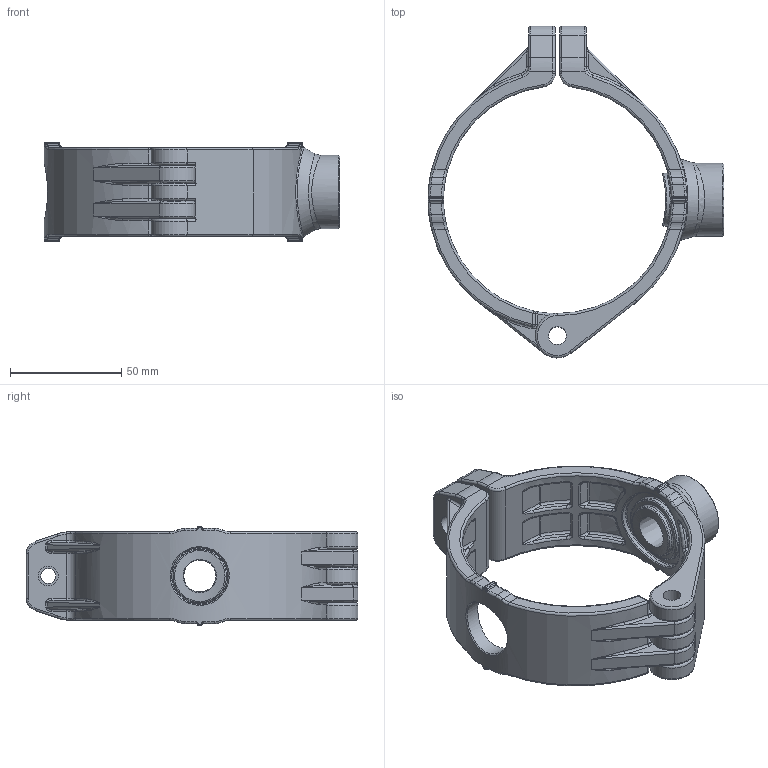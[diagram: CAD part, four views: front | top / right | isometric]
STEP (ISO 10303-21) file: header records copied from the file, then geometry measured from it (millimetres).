
FILE_DESCRIPTION(/* description */ (''),/* implementation_level */ '2;1');
FILE_NAME(/* name */ 'AU19 8199 00.stp',/* time_stamp */ '2025-07-25T14:10:44+08:00',/* author */ (''),/* organization */ (''),/* preprocessor_version */ 'ST-DEVELOPER v11',/* originating_system */ 'SIEMENS PLM Software NX 7.5',/* authorisation */ '');
FILE_SCHEMA (('CONFIG_CONTROL_DESIGN'));
Length unit declared in the file: millimetre
Products named in the file (1): Admi3CF6xyj1
Bounding box: 133.25 x 149.5 x 45 mm (x, y, z)
Volume: 111712.6 mm3; surface area: 47978.7 mm2
Topology: 2 solids, 2 shells, 871 faces, 2006 edges, 1055 vertices
Faces by surface type: cylinder 292, bspline 208, torus 154, plane 130, sphere 84, cone 3
Full cylindrical faces by diameter (mm): 6.8 x1, 8 x5, 9 x1, 23.5 x1, 24 x1, 25.5 x1, 33 x1
Entity records: 31041 total; most frequent: CARTESIAN_POINT 13107, DIRECTION 3805, ORIENTED_EDGE 3720, EDGE_CURVE 1860, AXIS2_PLACEMENT_3D 1655, VERTEX_POINT 1039, CIRCLE 942, EDGE_LOOP 935
